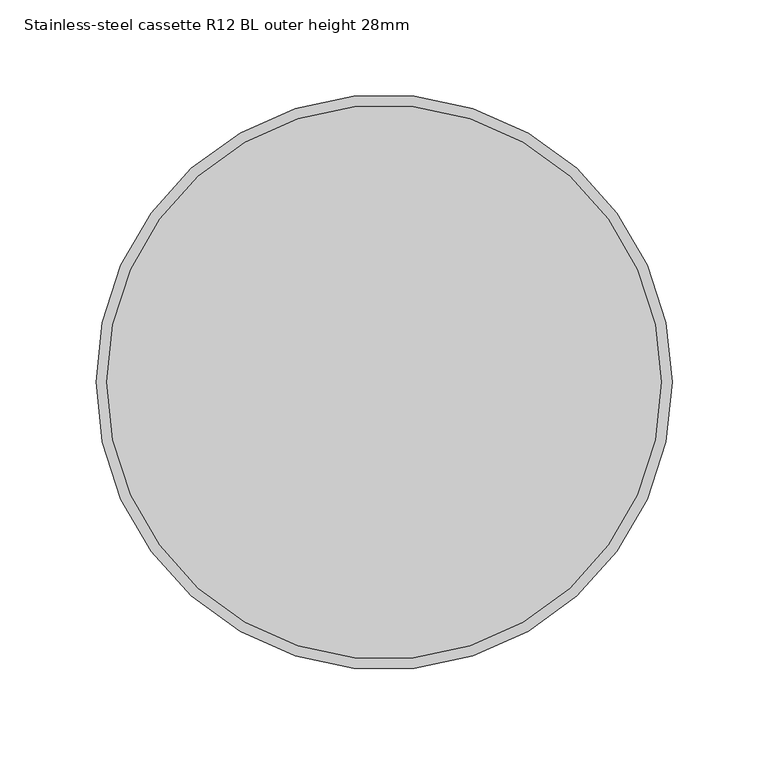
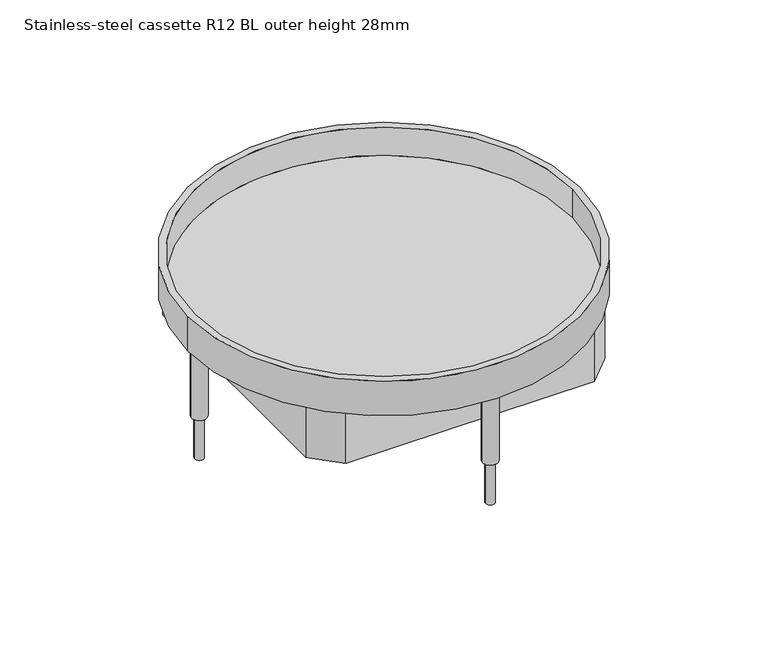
"""IFC4 building model written with IfcOpenShell, lengths in millimetres: proxy geometry, Electrical_Installation_Hager_VE-EE_EKR-Height-adjustable-stainless-steel-cassette-blank-round-for-damp-cleaned-floors : Stainless-steel cassette R12 BL outer height 28mm."""

from ifc_helpers import new_model, si_unit, point, frame, frame_2d, origin, place, context, project, spatial, polyline, circle_curve, trimmed, segment, composite_curve, outline, extrude, source, transform, mapped, element, save
from ifc_brep_helpers import plane_surface, cylinder_surface, revolved_surface, advanced_brep


def stainless_steel_cassette_r12_bl_outer_height_28mm_04f2a1df(model_context):
    return source(origin(), model_context, "Body", "SolidModel", [
        extrude(outline(composite_curve([segment(trimmed(circle_curve(frame_2d((-141.3, 0.0)), 3.5), [point((-144.8, 0.0))], [point((-137.8, 0.0))], False, "CARTESIAN"), True, "CONTINUOUS"), segment(trimmed(circle_curve(frame_2d((-141.3, 0.0)), 3.5), [point((-137.8, 0.0))], [point((-144.8, 0.0))], False, "CARTESIAN"), True, "CONTINUOUS")], self_intersect=False)), frame((0.0, 0.0, -115.0), z_axis=(0.0, 0.0, 1.0), x_axis=(1.0, 0.0, 0.0)), (0.0, 0.0, 1.0), 89.011943),
        extrude(outline(composite_curve([segment(trimmed(circle_curve(frame_2d((0.0, 141.3)), 3.5), [point((-3.5, 141.3))], [point((3.5, 141.3))], False, "CARTESIAN"), True, "CONTINUOUS"), segment(trimmed(circle_curve(frame_2d((0.0, 141.3)), 3.5), [point((3.5, 141.3))], [point((-3.5, 141.3))], False, "CARTESIAN"), True, "CONTINUOUS")], self_intersect=False)), frame((0.0, 0.0, -115.0), z_axis=(0.0, 0.0, 1.0), x_axis=(1.0, 0.0, 0.0)), (0.0, 0.0, 1.0), 89.011943),
        extrude(outline(composite_curve([segment(trimmed(circle_curve(frame_2d((141.3, 0.0)), 3.548869), [point((137.751131, 0.0))], [point((144.848869, 0.0))], False, "CARTESIAN"), True, "CONTINUOUS"), segment(trimmed(circle_curve(frame_2d((141.3, 0.0)), 3.548869), [point((144.848869, 0.0))], [point((137.751131, 0.0))], False, "CARTESIAN"), True, "CONTINUOUS")], self_intersect=False)), frame((0.0, 0.0, -115.0), z_axis=(0.0, 0.0, 1.0), x_axis=(1.0, 0.0, 0.0)), (0.0, 0.0, 1.0), 89.011943),
        extrude(outline(composite_curve([segment(trimmed(circle_curve(frame_2d((0.0, -141.3)), 3.5), [point((-3.5, -141.3))], [point((3.5, -141.3))], False, "CARTESIAN"), True, "CONTINUOUS"), segment(trimmed(circle_curve(frame_2d((0.0, -141.3)), 3.5), [point((3.5, -141.3))], [point((-3.5, -141.3))], False, "CARTESIAN"), True, "CONTINUOUS")], self_intersect=False)), frame((0.0, 0.0, -115.0), z_axis=(0.0, 0.0, 1.0), x_axis=(1.0, 0.0, 0.0)), (0.0, 0.0, 1.0), 89.011943),
        advanced_brep(
        [(144.5, 0.0, -20.988057), (-144.5, 0.0, -20.988057), (-150.0, 0.0, -25.988057), (150.0, 0.0, -25.988057), (-150.0, 0.0, 2.011943), (150.0, 0.0, 2.011943), (-144.5, 0.0, 2.011943), (144.5, 0.0, 2.011943)],
        [
            (0, 1, circle_curve(frame((0.0, 0.0, -20.988057), z_axis=(0.0, 0.0, 1.0), x_axis=(1.0, 0.0, 0.0)), 144.5)),
            (1, 0, circle_curve(frame((0.0, 0.0, -20.988057), z_axis=(0.0, 0.0, 1.0), x_axis=(1.0, 0.0, 0.0)), 144.5)),
            (2, 3, circle_curve(frame((0.0, 0.0, -25.988057), z_axis=(0.0, 0.0, -1.0), x_axis=(1.0, 0.0, 0.0)), 150.0)),
            (3, 2, circle_curve(frame((0.0, 0.0, -25.988057), z_axis=(0.0, 0.0, -1.0), x_axis=(1.0, 0.0, 0.0)), 150.0)),
            (4, 5, circle_curve(frame((0.0, 0.0, 2.011943), z_axis=(0.0, 0.0, 1.0), x_axis=(1.0, 0.0, 0.0)), 150.0)),
            (5, 4, circle_curve(frame((0.0, 0.0, 2.011943), z_axis=(0.0, 0.0, 1.0), x_axis=(1.0, 0.0, 0.0)), 150.0)),
            (6, 7, circle_curve(frame((0.0, 0.0, 2.011943), z_axis=(0.0, 0.0, -1.0), x_axis=(1.0, 0.0, 0.0)), 144.5)),
            (7, 6, circle_curve(frame((0.0, 0.0, 2.011943), z_axis=(0.0, 0.0, -1.0), x_axis=(1.0, 0.0, 0.0)), 144.5)),
            (4, 2),
            (3, 5),
            (6, 1),
            (0, 7),
        ],
        [
            plane_surface(frame((144.5, 0.0, -20.988057), z_axis=(0.0, 0.0, 1.0), x_axis=(0.0, 1.0, 0.0))),
            plane_surface(frame((144.5, 0.0, -25.988057), z_axis=(0.0, 0.0, -1.0), x_axis=(0.0, -1.0, 0.0))),
            plane_surface(frame((150.0, 0.0, 2.011943), z_axis=(0.0, 0.0, 1.0), x_axis=(0.0, 1.0, 0.0))),
            cylinder_surface(frame((0.0, 0.0, -25.988057), z_axis=(0.0, 0.0, 1.0), x_axis=(1.0, 0.0, 0.0)), 150.0),
            revolved_surface(polyline([(144.5, 0.0, -20.988057), (144.5, 0.0, 2.011943)]), (0.0, 0.0, 0.0), (0.0, 0.0, -1.0)),
        ],
        [
            (0, [[1, 2]]),
            (1, [[3, 4]]),
            (2, [[5, 6], [7, 8]]),
            (3, [[-5, 9, -4, 10]]),
            (3, [[-6, -10, -3, -9]]),
            (4, [[-7, 11, -1, 12]]),
            (4, [[-8, -12, -2, -11]]),
        ],
    ),
        extrude(outline(polyline([(94.9818914, 114.5), (114.5, 94.9818914), (114.5, -94.9818914), (94.9818914, -114.5), (-94.9818914, -114.5), (-114.5, -94.9818914), (-114.5, 94.9818914), (-94.9818914, 114.5), (94.9818914, 114.5)]), holes=[polyline([(-111.5, 93.8602374), (-111.5, -93.8602374), (-93.8602374, -111.5), (93.8602374, -111.5), (111.5, -93.8602374), (111.5, 93.8602374), (93.8602374, 111.5), (-93.8602374, 111.5), (-111.5, 93.8602374)])]), frame((0.0, 0.0, -66.9281369), z_axis=(0.0, 0.0, 1.0), x_axis=(1.0, 0.0, 0.0)), (0.0, 0.0, 1.0), 40.9400799),
        extrude(outline(composite_curve([segment(trimmed(circle_curve(frame_2d((0.0, 141.3)), 5.9738904), [point((-5.9738904, 141.3))], [point((5.9738904, 141.3))], False, "CARTESIAN"), True, "CONTINUOUS"), segment(trimmed(circle_curve(frame_2d((0.0, 141.3)), 5.9738904), [point((5.9738904, 141.3))], [point((-5.9738904, 141.3))], False, "CARTESIAN"), True, "CONTINUOUS")], self_intersect=False)), frame((0.0, 0.0, -81.0371838), z_axis=(0.0, 0.0, 1.0), x_axis=(1.0, 0.0, 0.0)), (0.0, 0.0, 1.0), 55.0491267),
        extrude(outline(composite_curve([segment(trimmed(circle_curve(frame_2d((141.3, 0.0)), 6.0), [point((135.3, 0.0))], [point((147.3, 0.0))], False, "CARTESIAN"), True, "CONTINUOUS"), segment(trimmed(circle_curve(frame_2d((141.3, 0.0)), 6.0), [point((147.3, 0.0))], [point((135.3, 0.0))], False, "CARTESIAN"), True, "CONTINUOUS")], self_intersect=False)), frame((0.0, 0.0, -81.0371838), z_axis=(0.0, 0.0, 1.0), x_axis=(1.0, 0.0, 0.0)), (0.0, 0.0, 1.0), 55.0491267),
        extrude(outline(composite_curve([segment(trimmed(circle_curve(frame_2d((0.0, -141.3)), 6.0), [point((-6.0, -141.3))], [point((6.0, -141.3))], False, "CARTESIAN"), True, "CONTINUOUS"), segment(trimmed(circle_curve(frame_2d((0.0, -141.3)), 6.0), [point((6.0, -141.3))], [point((-6.0, -141.3))], False, "CARTESIAN"), True, "CONTINUOUS")], self_intersect=False)), frame((0.0, 0.0, -81.0371838), z_axis=(0.0, 0.0, 1.0), x_axis=(1.0, 0.0, 0.0)), (0.0, 0.0, 1.0), 55.0491267),
        extrude(outline(composite_curve([segment(trimmed(circle_curve(frame_2d((-141.3, 0.0)), 6.0), [point((-147.3, 0.0))], [point((-135.3, 0.0))], False, "CARTESIAN"), True, "CONTINUOUS"), segment(trimmed(circle_curve(frame_2d((-141.3, 0.0)), 6.0), [point((-135.3, 0.0))], [point((-147.3, 0.0))], False, "CARTESIAN"), True, "CONTINUOUS")], self_intersect=False)), frame((0.0, 0.0, -81.0371838), z_axis=(0.0, 0.0, 1.0), x_axis=(1.0, 0.0, 0.0)), (0.0, 0.0, 1.0), 55.0491267),
    ])


if __name__ == "__main__":
    model = new_model("IFC4")
    model_context = context("Model", 3, world=origin())
    ifc_project = project(units=[si_unit("LENGTHUNIT", "METRE", prefix="MILLI")], contexts=[model_context])
    site = spatial("IfcSite", under=ifc_project)
    building = spatial("IfcBuilding", under=site)
    placement = place(None, origin())
    stainless_steel_cassette_r12_bl_outer_height_28mm_shape = stainless_steel_cassette_r12_bl_outer_height_28mm_04f2a1df(model_context)
    element("IfcBuildingElementProxy", 1, Name="Electrical_Installation_Hager_VE-EE_EKR-Height-adjustable-stainless-steel-cassette-blank-round-for-damp-cleaned-floors : Stainless-steel cassette R12 BL outer height 28mm", ObjectType="Electrical_Installation_Hager_VE-EE_EKR-Height-adjustable-stainless-steel-cassette-blank-round-for-damp-cleaned-floors : Stainless-steel cassette R12 BL outer height 28mm", at=placement, inside=building, context=model_context, shape_type="MappedRepresentation", body=[
        mapped(stainless_steel_cassette_r12_bl_outer_height_28mm_shape, transform((0.0, 0.0, 0.0), x_axis=(1.0, 0.0, 0.0), y_axis=(0.0, 1.0, 0.0), z_axis=(0.0, 0.0, 1.0))),
    ])
    save(model, "model.ifc")
